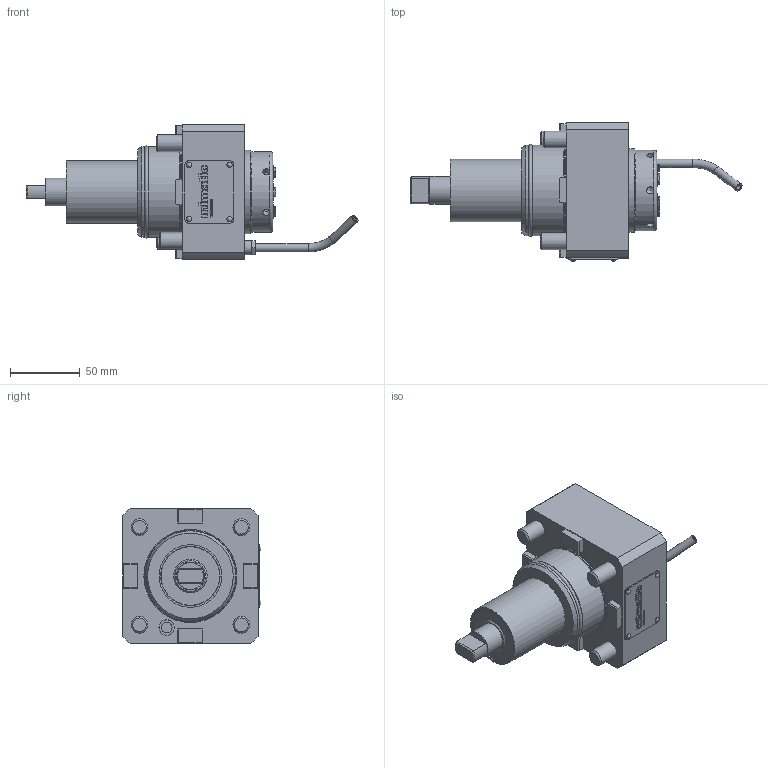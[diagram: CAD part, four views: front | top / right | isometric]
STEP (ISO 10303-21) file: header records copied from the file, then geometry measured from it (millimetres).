
FILE_DESCRIPTION(/* description */ (''),/* implementation_level */ '2;1');
FILE_NAME(/* name */ 'A186489',/* time_stamp */ '2020-05-25T14:47:39+02:00',/* author */ (''),/* organization */ (''),/* preprocessor_version */ 'ST-DEVELOPER v16.5',/* originating_system */ 'HiCAD 2017 2201.0 Build 268',/* authorisation */ '');
FILE_SCHEMA (('AUTOMOTIVE_DESIGN { 1 0 10303 214 1 1 1 1 }'));
Length unit declared in the file: millimetre
Products named in the file (6): Root; A186489_AGW-BMT-A-65-ER32-E; GEWINDE
Assembly tree (5 placements, depth 3):
  Root
    A186489_AGW-BMT-A-65-ER32-E
      GEWINDE
      GEWINDE
      GEWINDE
      GEWINDE
Bounding box: 238.17 x 99.29 x 97 mm (x, y, z)
Volume: 634879.7 mm3; surface area: 86535.3 mm2
Topology: 6 solids, 12 shells, 693 faces, 1764 edges, 1150 vertices
Faces by surface type: plane 382, cylinder 193, cone 50, bspline 38, torus 26, sphere 4
Full cylindrical faces by diameter (mm): 2 x4, 2.2 x4, 3 x8, 4 x2, 5.1 x6, 6 x2, 7.65 x1, 9.853 x8, 10 x1, 11.01 x1, 11.1 x1, 12 x4, 12.5 x2, 18 x4, 19 x2, 20 x3, 22 x4, 22.4 x2, 23.5 x1, 24 x1, 27 x1, 40 x1, 40.5 x1, 42 x1, 45 x1, 50 x1, 56 x1, 58 x1, 60 x1, 60.8 x1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
Entity records: 45108 total; most frequent: CARTESIAN_POINT 11169, PRESENTATION_STYLE_ASSIGNMENT 3536, OVER_RIDING_STYLED_ITEM 3531, COLOUR_RGB 3138, DRAUGHTING_PRE_DEFINED_CURVE_FONT 3130, CURVE_STYLE 3130, ORIENTED_EDGE 3130, DIRECTION 3104
